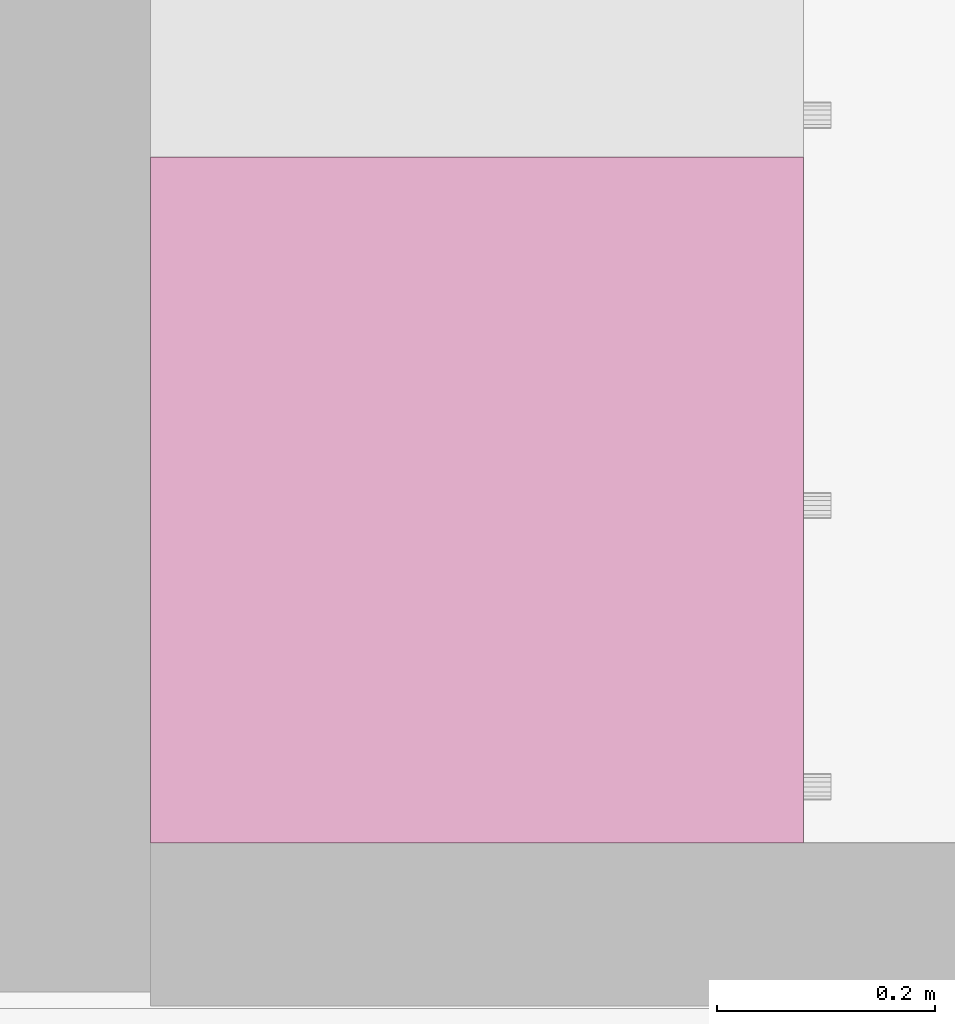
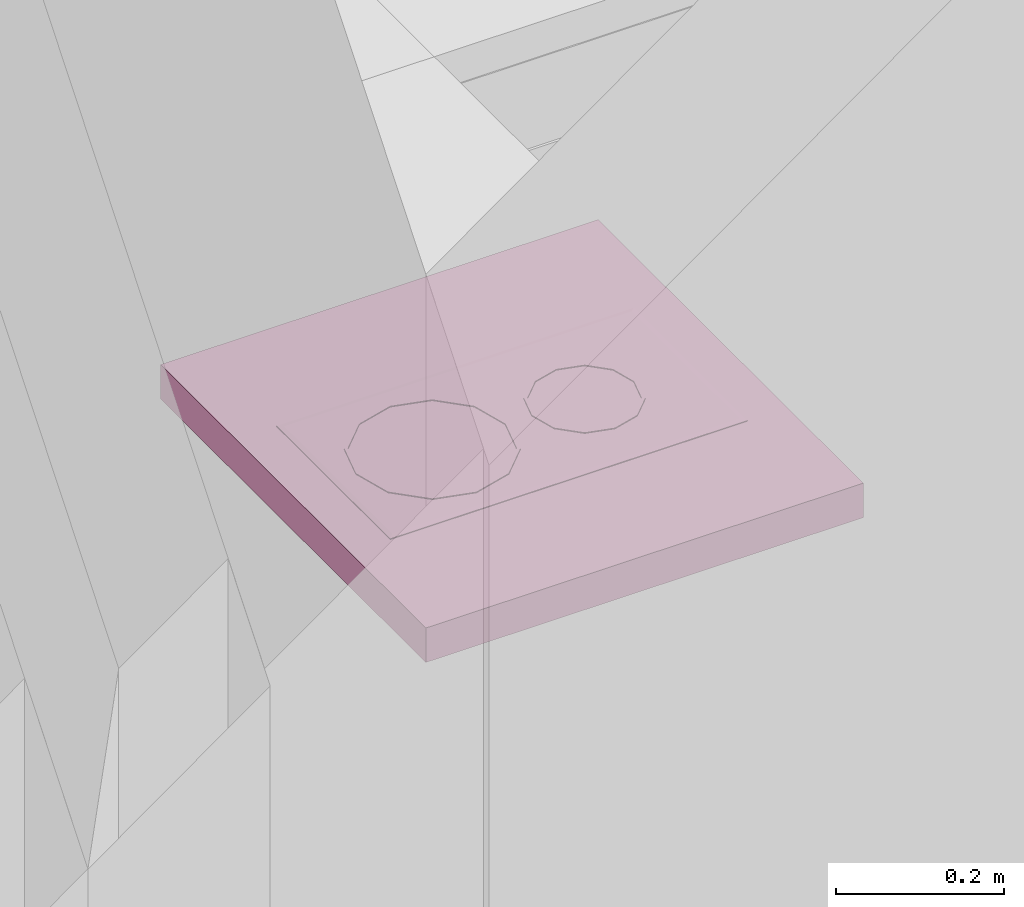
# One storey, part 167 of 172: 1 furnishing.
"""IFC2X3 building model written with IfcOpenShell, lengths in millimetres."""

from ifc_helpers import new_model, entity, si_unit, converted_unit, money_unit, direction, frame, origin_with_axes, place, context, subcontext, project, spatial, faceted_brep, source, transform, mapped, material, material_list, type_object, element, save


model = new_model("IFC2X3")

# Units and contexts
model_context = context("Model", 3, precision=1e-05, world=origin_with_axes(), true_north=direction((0.0, 1.0)))
body_context = subcontext(model_context, "Body", "Model", "MODEL_VIEW")
ifc_project = project(units=[si_unit("LENGTHUNIT", "METRE", prefix="MILLI"), si_unit("AREAUNIT", "SQUARE_METRE"), si_unit("VOLUMEUNIT", "CUBIC_METRE"), converted_unit("PLANEANGLEUNIT", "DEGREE", entity("IfcPlaneAngleMeasure", 0.0174532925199), si_unit("PLANEANGLEUNIT", "RADIAN"), dimensions=[0, 0, 0, 0, 0, 0, 0]), si_unit("SOLIDANGLEUNIT", "STERADIAN"), money_unit("USD"), converted_unit("TIMEUNIT", "Year", entity("IfcTimeMeasure", 31556926.0), si_unit("TIMEUNIT", "SECOND"), dimensions=[0, 0, 0, 0, 0, 0, 0]), si_unit("MASSUNIT", "GRAM"), si_unit("THERMODYNAMICTEMPERATUREUNIT", "DEGREE_CELSIUS"), si_unit("LUMINOUSINTENSITYUNIT", "LUMEN")], contexts=[model_context])

# Site, building, storey
site_placement = place(None, origin_with_axes())
site = spatial("IfcSite", under=ifc_project, at=site_placement, Name="Site", CompositionType="ELEMENT")
building_placement = place(site_placement, origin_with_axes())
building = spatial("IfcBuilding", under=site, at=building_placement, Name="Building", CompositionType="ELEMENT")
storey_placement = place(building_placement, frame((0.0, 0.0, 3200.0), z_axis=(0.0, 0.0, 1.0), x_axis=(1.0, 0.0, 0.0)))
storey = spatial("IfcBuildingStorey", under=building, at=storey_placement, Name="3KORRUS", CompositionType="ELEMENT", Elevation=3200.0)

# Furnishing
ifc_material = material(Name="Background")
ifc_material_list = material_list([ifc_material])
furnishing_element_type = type_object("IfcFurnishingElementType", Name="Built-in Cooktops 19")
shared_shape = source(origin_with_axes(), body_context, "Body", "Brep", [
    faceted_brep([(0.0, 0.0, 850.0), (0.0, 0.0, 900.0), (-629.977, 0.0, 900.0), (-629.977, 0.0, 850.0), (0.0, 600.0, 850.0), (0.0, 600.0, 900.0), (-629.977, 600.0, 900.0), (-629.977, 600.0, 850.0)], [[[0, 1, 2, 3]], [[4, 5, 1, 0]], [[1, 5, 6, 2]], [[3, 2, 6, 7]], [[0, 3, 7, 4]], [[7, 6, 5, 4]]]),
    faceted_brep([(-179.989, 55.0, 900.0), (-449.989, 55.0, 900.0), (-449.989, 545.0, 900.0), (-179.989, 545.0, 900.0), (-179.989, 55.0, 900.8), (-449.989, 55.0, 900.8), (-449.989, 545.0, 900.8), (-179.989, 545.0, 900.8), (-186.794, 61.806, 902.0), (-443.183, 61.806, 902.0), (-443.183, 538.194, 902.0), (-186.794, 538.194, 902.0)], [[[0, 1, 2, 3]], [[0, 4, 5, 1]], [[1, 5, 6, 2]], [[2, 6, 7, 3]], [[3, 7, 4, 0]], [[4, 8, 9, 5]], [[5, 9, 10, 6]], [[6, 10, 11, 7]], [[7, 11, 8, 4]], [[10, 9, 8, 11]]]),
    faceted_brep([(-209.989, 409.27, 902.0), (-209.989, 409.27, 903.0), (-224.056, 356.77, 903.0), (-224.056, 356.77, 902.0), (-224.056, 461.77, 902.0), (-224.056, 461.77, 903.0), (-262.489, 500.203, 903.0), (-314.989, 514.27, 903.0), (-367.489, 500.203, 903.0), (-405.921, 461.77, 903.0), (-419.989, 409.27, 903.0), (-405.921, 356.77, 903.0), (-367.489, 318.337, 903.0), (-314.989, 304.27, 903.0), (-262.489, 318.337, 903.0), (-214.989, 409.27, 903.0), (-228.386, 359.27, 903.0), (-264.989, 322.667, 903.0), (-314.989, 309.27, 903.0), (-364.989, 322.667, 903.0), (-401.591, 359.27, 903.0), (-414.989, 409.27, 903.0), (-401.591, 459.27, 903.0), (-364.989, 495.873, 903.0), (-314.989, 509.27, 903.0), (-264.989, 495.873, 903.0), (-228.386, 459.27, 903.0), (-262.489, 318.337, 902.0), (-314.989, 304.27, 902.0), (-367.489, 318.337, 902.0), (-405.921, 356.77, 902.0), (-419.989, 409.27, 902.0), (-405.921, 461.77, 902.0), (-367.489, 500.203, 902.0), (-314.989, 514.27, 902.0), (-262.489, 500.203, 902.0), (-214.989, 409.27, 902.0), (-228.386, 459.27, 902.0), (-264.989, 495.873, 902.0), (-314.989, 509.27, 902.0), (-364.989, 495.873, 902.0), (-401.591, 459.27, 902.0), (-414.989, 409.27, 902.0), (-401.591, 359.27, 902.0), (-364.989, 322.667, 902.0), (-314.989, 309.27, 902.0), (-264.989, 322.667, 902.0), (-228.386, 359.27, 902.0)], [[[0, 1, 2, 3]], [[4, 5, 1, 0]], [[1, 5, 6, 7, 8, 9, 10, 11, 12, 13, 14, 2], [15, 16, 17, 18, 19, 20, 21, 22, 23, 24, 25, 26]], [[3, 2, 14, 27]], [[0, 3, 27, 28, 29, 30, 31, 32, 33, 34, 35, 4], [36, 37, 38, 39, 40, 41, 42, 43, 44, 45, 46, 47]], [[35, 6, 5, 4]], [[34, 7, 6, 35]], [[33, 8, 7, 34]], [[32, 9, 8, 33]], [[31, 10, 9, 32]], [[30, 11, 10, 31]], [[29, 12, 11, 30]], [[28, 13, 12, 29]], [[27, 14, 13, 28]], [[47, 16, 15, 36]], [[46, 17, 16, 47]], [[45, 18, 17, 46]], [[44, 19, 18, 45]], [[43, 20, 19, 44]], [[42, 21, 20, 43]], [[41, 22, 21, 42]], [[40, 23, 22, 41]], [[39, 24, 23, 40]], [[38, 25, 24, 39]], [[37, 26, 25, 38]], [[36, 15, 26, 37]]]),
    faceted_brep([(-242.489, 200.53, 902.0), (-242.489, 200.53, 903.0), (-252.202, 164.28, 903.0), (-252.202, 164.28, 902.0), (-252.202, 236.78, 902.0), (-252.202, 236.78, 903.0), (-278.739, 263.317, 903.0), (-314.989, 273.03, 903.0), (-351.239, 263.317, 903.0), (-377.775, 236.78, 903.0), (-387.489, 200.53, 903.0), (-377.775, 164.28, 903.0), (-351.239, 137.743, 903.0), (-314.989, 128.03, 903.0), (-278.739, 137.743, 903.0), (-247.489, 200.53, 903.0), (-256.532, 166.78, 903.0), (-281.239, 142.073, 903.0), (-314.989, 133.03, 903.0), (-348.739, 142.073, 903.0), (-373.445, 166.78, 903.0), (-382.489, 200.53, 903.0), (-373.445, 234.28, 903.0), (-348.739, 258.987, 903.0), (-314.989, 268.03, 903.0), (-281.239, 258.987, 903.0), (-256.532, 234.28, 903.0), (-278.739, 137.743, 902.0), (-314.989, 128.03, 902.0), (-351.239, 137.743, 902.0), (-377.775, 164.28, 902.0), (-387.489, 200.53, 902.0), (-377.775, 236.78, 902.0), (-351.239, 263.317, 902.0), (-314.989, 273.03, 902.0), (-278.739, 263.317, 902.0), (-247.489, 200.53, 902.0), (-256.532, 234.28, 902.0), (-281.239, 258.987, 902.0), (-314.989, 268.03, 902.0), (-348.739, 258.987, 902.0), (-373.445, 234.28, 902.0), (-382.489, 200.53, 902.0), (-373.445, 166.78, 902.0), (-348.739, 142.073, 902.0), (-314.989, 133.03, 902.0), (-281.239, 142.073, 902.0), (-256.532, 166.78, 902.0)], [[[0, 1, 2, 3]], [[4, 5, 1, 0]], [[1, 5, 6, 7, 8, 9, 10, 11, 12, 13, 14, 2], [15, 16, 17, 18, 19, 20, 21, 22, 23, 24, 25, 26]], [[3, 2, 14, 27]], [[0, 3, 27, 28, 29, 30, 31, 32, 33, 34, 35, 4], [36, 37, 38, 39, 40, 41, 42, 43, 44, 45, 46, 47]], [[35, 6, 5, 4]], [[34, 7, 6, 35]], [[33, 8, 7, 34]], [[32, 9, 8, 33]], [[31, 10, 9, 32]], [[30, 11, 10, 31]], [[29, 12, 11, 30]], [[28, 13, 12, 29]], [[27, 14, 13, 28]], [[47, 16, 15, 36]], [[46, 17, 16, 47]], [[45, 18, 17, 46]], [[44, 19, 18, 45]], [[43, 20, 19, 44]], [[42, 21, 20, 43]], [[41, 22, 21, 42]], [[40, 23, 22, 41]], [[39, 24, 23, 40]], [[38, 25, 24, 39]], [[37, 26, 25, 38]], [[36, 15, 26, 37]]]),
])
furnishing_placement = place(storey_placement, frame((6609.70329669, -10356.6268342, 0.0), z_axis=(0.0, 0.0, 1.0), x_axis=(0.0, 1.0, 0.0)))
element("IfcFurnishingElement", 1, at=furnishing_placement, inside=storey, type_object=furnishing_element_type, material=ifc_material_list, Name="FU - 007", context=body_context, shape_type="MappedRepresentation", body=[
    mapped(shared_shape, transform((0.0, 0.0, 0.0))),
])

save(model, "model.ifc")
